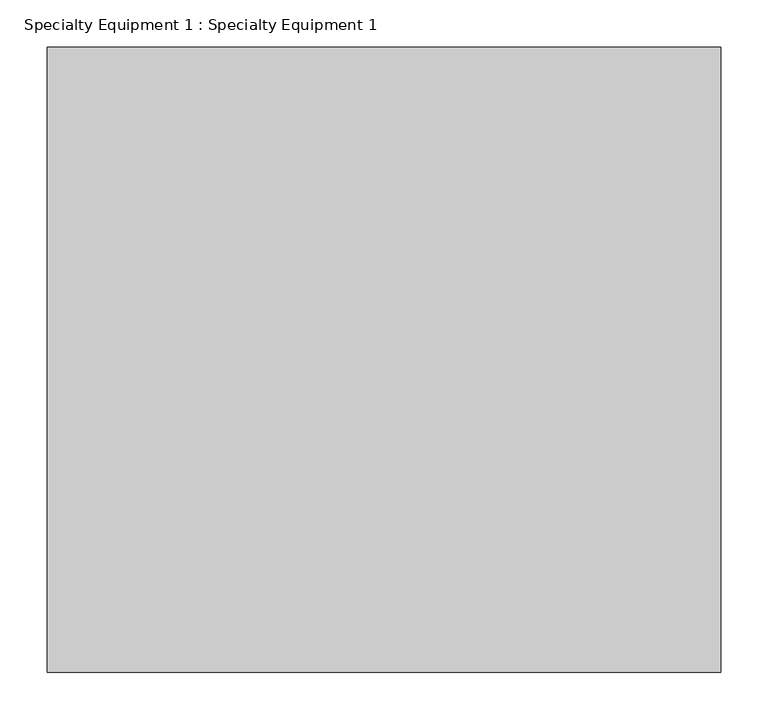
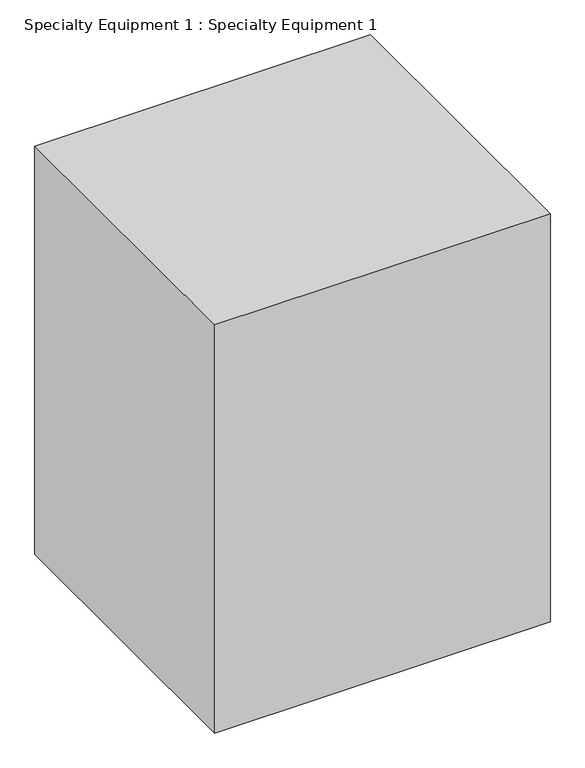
"""IFC4 building model written with IfcOpenShell, lengths in millimetres: proxy geometry, Specialty Equipment 1 : Specialty Equipment 1."""

from ifc_helpers import new_model, si_unit, frame, origin, place, context, project, spatial, polyline, outline, extrude, source, transform, mapped, element, save


def specialty_equipment_1_specialty_equipment_1_6cf6217c(model_context):
    return source(origin(), model_context, "Body", "SweptSolid", [
        extrude(outline(polyline([(5156.2, 13715.8947736), (5867.4, 13715.8947736), (5867.4, 13055.4947926), (5156.2, 13055.4947926), (5156.2, 13715.8947736)])), frame((0.0, 0.0, 3348.0), z_axis=(0.0, 0.0, 1.0), x_axis=(1.0, 0.0, 0.0)), (0.0, 0.0, 1.0), 914.4),
    ])


if __name__ == "__main__":
    model = new_model("IFC4")
    model_context = context("Model", 3, world=origin())
    ifc_project = project(units=[si_unit("LENGTHUNIT", "METRE", prefix="MILLI")], contexts=[model_context])
    site = spatial("IfcSite", under=ifc_project)
    building = spatial("IfcBuilding", under=site)
    placement = place(None, origin())
    specialty_equipment_1_specialty_equipment_1_shape = specialty_equipment_1_specialty_equipment_1_6cf6217c(model_context)
    element("IfcBuildingElementProxy", 1, Name="Specialty Equipment 1 : Specialty Equipment 1", ObjectType="Specialty Equipment 1 : Specialty Equipment 1", at=placement, inside=building, context=model_context, shape_type="MappedRepresentation", body=[
        mapped(specialty_equipment_1_specialty_equipment_1_shape, transform((0.0, 0.0, 0.0), x_axis=(1.0, 0.0, 0.0), y_axis=(0.0, 1.0, 0.0), z_axis=(0.0, 0.0, 1.0))),
    ])
    save(model, "model.ifc")
